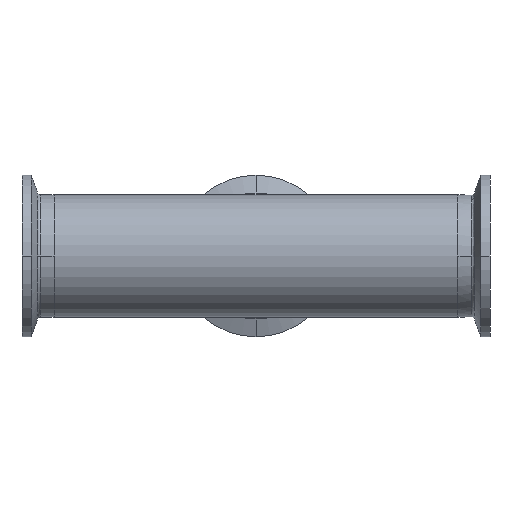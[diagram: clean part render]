
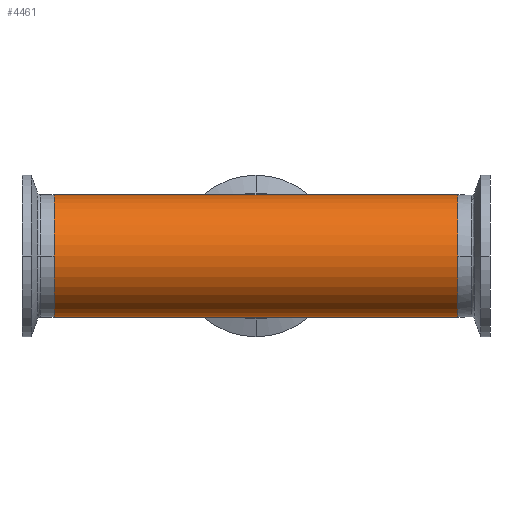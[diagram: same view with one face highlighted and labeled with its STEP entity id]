
A CAD part, front view. The second image highlights one B-rep face of the part: STEP entity #4461.
In plain terms, the highlighted cylindrical face has radius 19.05 mm (diameter 38.1 mm), a partial arc.
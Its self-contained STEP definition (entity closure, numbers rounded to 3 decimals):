
#190 = ORIENTED_EDGE ( 'NONE', *, *, #3227, .F. ) ;
#197 = AXIS2_PLACEMENT_3D ( 'NONE', #3662, #4384, #2555 ) ;
#408 = DIRECTION ( 'NONE',  ( -1., 0., 0. ) ) ;
#459 = DIRECTION ( 'NONE',  ( -1., 0., 0. ) ) ;
#499 = CARTESIAN_POINT ( 'NONE',  ( -63., 0., 19.05 ) ) ;
#525 = CYLINDRICAL_SURFACE ( 'NONE', #3342, 19.05 ) ;
#614 = EDGE_CURVE ( 'NONE', #4501, #1773, #682, .T. ) ;
#682 = CIRCLE ( 'NONE', #197, 19.05 ) ;
#883 = VECTOR ( 'NONE', #3728, 1000. ) ;
#934 = ORIENTED_EDGE ( 'NONE', *, *, #1140, .T. ) ;
#1140 = EDGE_CURVE ( 'NONE', #1773, #4539, #1973, .T. ) ;
#1380 = ORIENTED_EDGE ( 'NONE', *, *, #1756, .F. ) ;
#1621 = VERTEX_POINT ( 'NONE', #1932 ) ;
#1640 = CARTESIAN_POINT ( 'NONE',  ( -63., 0., -19.05 ) ) ;
#1693 = LINE ( 'NONE', #4119, #3633 ) ;
#1724 = CARTESIAN_POINT ( 'NONE',  ( 63., 0., -19.05 ) ) ;
#1756 = EDGE_CURVE ( 'NONE', #4501, #1621, #1693, .T. ) ;
#1773 = VERTEX_POINT ( 'NONE', #4024 ) ;
#1824 = ORIENTED_EDGE ( 'NONE', *, *, #2164, .T. ) ;
#1852 = LINE ( 'NONE', #4426, #883 ) ;
#1887 = EDGE_LOOP ( 'NONE', ( #1380, #4524, #934, #1824, #2342, #190 ) ) ;
#1932 = CARTESIAN_POINT ( 'NONE',  ( 0., 0., -19.05 ) ) ;
#1970 = LINE ( 'NONE', #2618, #3811 ) ;
#1973 = LINE ( 'NONE', #2674, #2949 ) ;
#2014 = DIRECTION ( 'NONE',  ( 1., 0., 0. ) ) ;
#2164 = EDGE_CURVE ( 'NONE', #4539, #4398, #1970, .T. ) ;
#2342 = ORIENTED_EDGE ( 'NONE', *, *, #2843, .T. ) ;
#2418 = DIRECTION ( 'NONE',  ( 0., 0., 1. ) ) ;
#2555 = DIRECTION ( 'NONE',  ( 0., 0., 1. ) ) ;
#2618 = CARTESIAN_POINT ( 'NONE',  ( 116.882, 0., 19.05 ) ) ;
#2662 = CIRCLE ( 'NONE', #2859, 19.05 ) ;
#2674 = CARTESIAN_POINT ( 'NONE',  ( 116.882, 0., 19.05 ) ) ;
#2843 = EDGE_CURVE ( 'NONE', #4398, #3743, #2662, .T. ) ;
#2859 = AXIS2_PLACEMENT_3D ( 'NONE', #4197, #2014, #3449 ) ;
#2949 = VECTOR ( 'NONE', #2957, 1000. ) ;
#2957 = DIRECTION ( 'NONE',  ( -1., 0., 0. ) ) ;
#3134 = DIRECTION ( 'NONE',  ( -1., 0., 0. ) ) ;
#3227 = EDGE_CURVE ( 'NONE', #1621, #3743, #1852, .T. ) ;
#3342 = AXIS2_PLACEMENT_3D ( 'NONE', #4586, #3134, #2418 ) ;
#3449 = DIRECTION ( 'NONE',  ( 0., 0., 1. ) ) ;
#3633 = VECTOR ( 'NONE', #459, 1000. ) ;
#3662 = CARTESIAN_POINT ( 'NONE',  ( 63., 0., 0. ) ) ;
#3728 = DIRECTION ( 'NONE',  ( -1., 0., 0. ) ) ;
#3743 = VERTEX_POINT ( 'NONE', #1640 ) ;
#3811 = VECTOR ( 'NONE', #408, 1000. ) ;
#3955 = CARTESIAN_POINT ( 'NONE',  ( 0., 0., 19.05 ) ) ;
#4024 = CARTESIAN_POINT ( 'NONE',  ( 63., 0., 19.05 ) ) ;
#4119 = CARTESIAN_POINT ( 'NONE',  ( 116.882, 0., -19.05 ) ) ;
#4197 = CARTESIAN_POINT ( 'NONE',  ( -63., 0., 0. ) ) ;
#4384 = DIRECTION ( 'NONE',  ( -1., 0., 0. ) ) ;
#4398 = VERTEX_POINT ( 'NONE', #499 ) ;
#4426 = CARTESIAN_POINT ( 'NONE',  ( 116.882, 0., -19.05 ) ) ;
#4461 = ADVANCED_FACE ( 'NONE', ( #4491 ), #525, .T. ) ;
#4491 = FACE_OUTER_BOUND ( 'NONE', #1887, .T. ) ;
#4501 = VERTEX_POINT ( 'NONE', #1724 ) ;
#4524 = ORIENTED_EDGE ( 'NONE', *, *, #614, .T. ) ;
#4539 = VERTEX_POINT ( 'NONE', #3955 ) ;
#4586 = CARTESIAN_POINT ( 'NONE',  ( 116.882, 0., 0. ) ) ;
